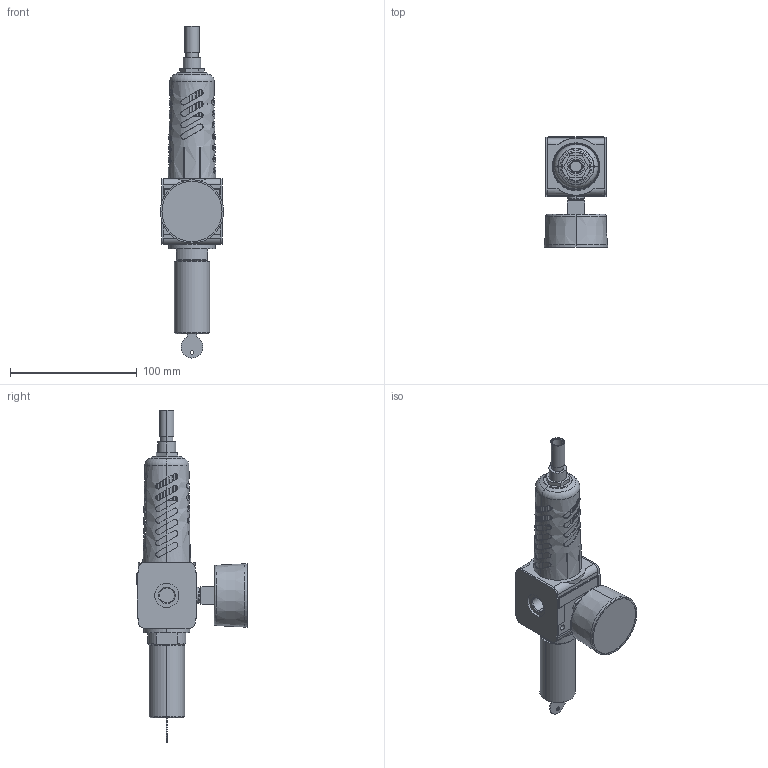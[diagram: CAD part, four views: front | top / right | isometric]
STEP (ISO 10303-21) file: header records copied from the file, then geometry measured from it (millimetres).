
FILE_DESCRIPTION((''),'2;1');
FILE_NAME('0821300222_ASM','2019-02-25T',('PDH2HC'),(''),'CREO PARAMETRIC BY PTC INC, 2016260','CREO PARAMETRIC BY PTC INC, 2016260','');
FILE_SCHEMA(('CONFIG_CONTROL_DESIGN'));
Length unit declared in the file: millimetre
Products named in the file (6): 0821300222-A; 0821300222-B; 1827231010; 0821300222-D; 0821300222-C; 0821300222_ASM
Assembly tree (6 placements, depth 2):
  0821300222_ASM
    0821300222-A
    0821300222-B
    1827231010
    0821300222-D
    0821300222-C  x2
Bounding box: 50 x 87.2 x 262.28 mm (x, y, z)
Volume: 288010.3 mm3; surface area: 70571.6 mm2
Topology: 6 solids, 6 shells, 391 faces, 1127 edges, 739 vertices
Faces by surface type: plane 212, cylinder 137, cone 34, torus 8
Entity records: 17238 total; most frequent: CARTESIAN_POINT 7882, ORIENTED_EDGE 2098, DIRECTION 1696, EDGE_CURVE 1049, VERTEX_POINT 687, AXIS2_PLACEMENT_3D 619, VECTOR 458, LINE 458
